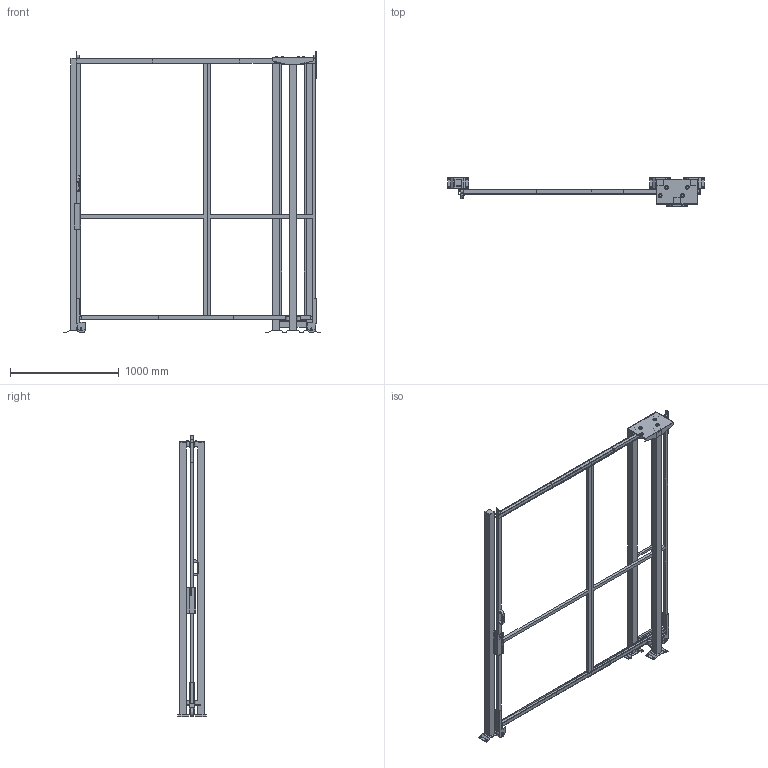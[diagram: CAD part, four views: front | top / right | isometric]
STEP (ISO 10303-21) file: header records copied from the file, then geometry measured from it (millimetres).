
FILE_DESCRIPTION(/* description */ (''),/* implementation_level */ '2;1');
FILE_NAME(/* name */ 'C:\SafeGuarding\ELABORATI\KLADKA_2025-03-20-11-50-31.stp',/* time_stamp */ '2025-03-20T11:50:36+01:00',/* author */ ('admin'),/* organization */ (''),/* preprocessor_version */ 'ST-DEVELOPER v18.1',/* originating_system */ 'AutoCAD Mechanical',/* authorisation */ '');
FILE_SCHEMA (('AUTOMOTIVE_DESIGN { 1 0 10303 214 3 1 1 }'));
Length unit declared in the file: millimetre
Products named in the file (5): Product; VFPA.REPE30.10002400; VFPA.REPE30.12002400; VFPA.REPE2002502400; P_VFMA.V360SDU.2520
Assembly tree (7 placements, depth 2):
  Product
    VFPA.REPE30.10002400
    VFPA.REPE30.12002400
    VFPA.REPE2002502400
    P_VFMA.V360SDU.2520  x4
Bounding box: 2361.97 x 264.14 x 2590.02 mm (x, y, z)
Volume: 56042054.2 mm3; surface area: 7117203.9 mm2
Topology: 48 solids, 59 shells, 501 faces, 1633 edges, 1601 vertices
Faces by surface type: plane 449, cylinder 50, sphere 2
Full cylindrical faces by diameter (mm): 9 x4, 11 x16, 13 x4, 30 x6, 36 x8, 80 x2
Entity records: 14882 total; most frequent: CARTESIAN_POINT 3197, DIRECTION 2249, ORIENTED_EDGE 2034, LINE 1115, VECTOR 1115, EDGE_CURVE 1066, VERTEX_POINT 750, AXIS2_PLACEMENT_3D 567
